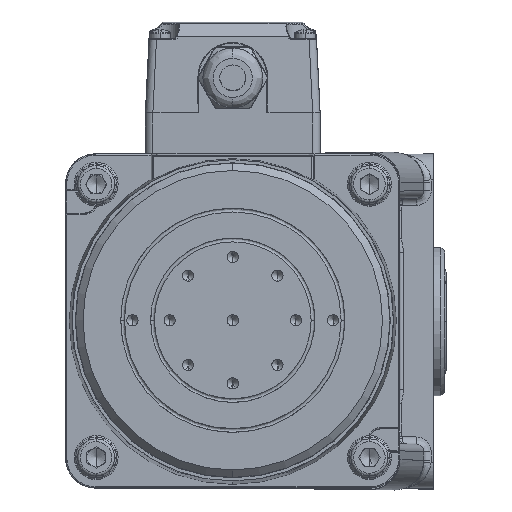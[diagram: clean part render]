
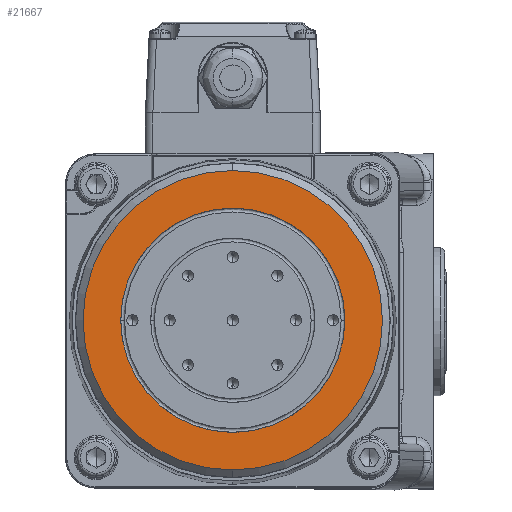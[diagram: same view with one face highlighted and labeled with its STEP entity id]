
A CAD part, top view. The second image highlights one B-rep face of the part: STEP entity #21667.
In plain terms, the highlighted planar face has unit normal (0, 0, 1) as drawn and (0, 0, -1) by its records, which use the part's own axes.
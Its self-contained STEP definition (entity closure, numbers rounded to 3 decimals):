
#645 = VERTEX_POINT ( 'NONE', #47322 ) ;
#1677 = FACE_OUTER_BOUND ( 'NONE', #65359, .T. ) ;
#3522 = CIRCLE ( 'NONE', #73981, 40.3 ) ;
#7780 = EDGE_CURVE ( 'NONE', #645, #13506, #3522, .T. ) ;
#13506 = VERTEX_POINT ( 'NONE', #37418 ) ;
#13591 = CARTESIAN_POINT ( 'NONE',  ( 14.34, -4.557, 71. ) ) ;
#18049 = CARTESIAN_POINT ( 'NONE',  ( 14.34, -4.557, 71. ) ) ;
#18631 = CARTESIAN_POINT ( 'NONE',  ( 14.34, -4.557, 71. ) ) ;
#18808 = DIRECTION ( 'NONE',  ( 1., 0., 0. ) ) ;
#19599 = CIRCLE ( 'NONE', #46079, 40.3 ) ;
#21667 = ADVANCED_FACE ( 'NONE', ( #1677, #102704 ), #34804, .F. ) ;
#30130 = DIRECTION ( 'NONE',  ( 0., 0., -1. ) ) ;
#33222 = DIRECTION ( 'NONE',  ( 0., 0., 1. ) ) ;
#34053 = DIRECTION ( 'NONE',  ( 0., 0., -1. ) ) ;
#34804 = PLANE ( 'NONE',  #99738 ) ;
#34878 = CIRCLE ( 'NONE', #87746, 30.16 ) ;
#37418 = CARTESIAN_POINT ( 'NONE',  ( -25.96, -4.557, 71. ) ) ;
#40312 = CARTESIAN_POINT ( 'NONE',  ( -15.821, -4.557, 71. ) ) ;
#44528 = ORIENTED_EDGE ( 'NONE', *, *, #103623, .F. ) ;
#45868 = VERTEX_POINT ( 'NONE', #40312 ) ;
#46079 = AXIS2_PLACEMENT_3D ( 'NONE', #18631, #87033, #62203 ) ;
#47322 = CARTESIAN_POINT ( 'NONE',  ( 54.639, -4.557, 71. ) ) ;
#53627 = EDGE_CURVE ( 'NONE', #13506, #645, #19599, .T. ) ;
#55580 = ORIENTED_EDGE ( 'NONE', *, *, #53627, .F. ) ;
#62203 = DIRECTION ( 'NONE',  ( 1., 0., 0. ) ) ;
#65359 = EDGE_LOOP ( 'NONE', ( #73220, #55580 ) ) ;
#67710 = DIRECTION ( 'NONE',  ( -1., 0., 0. ) ) ;
#67800 = EDGE_CURVE ( 'NONE', #45868, #107839, #34878, .T. ) ;
#73209 = CIRCLE ( 'NONE', #97919, 30.16 ) ;
#73220 = ORIENTED_EDGE ( 'NONE', *, *, #7780, .F. ) ;
#73326 = ORIENTED_EDGE ( 'NONE', *, *, #67800, .F. ) ;
#73981 = AXIS2_PLACEMENT_3D ( 'NONE', #101650, #33222, #84483 ) ;
#76719 = DIRECTION ( 'NONE',  ( 0., 0., 1. ) ) ;
#80867 = DIRECTION ( 'NONE',  ( -1., 0., 0. ) ) ;
#84483 = DIRECTION ( 'NONE',  ( 1., 0., 0. ) ) ;
#87033 = DIRECTION ( 'NONE',  ( 0., 0., 1. ) ) ;
#87746 = AXIS2_PLACEMENT_3D ( 'NONE', #18049, #34053, #67710 ) ;
#88754 = CARTESIAN_POINT ( 'NONE',  ( 44.5, -4.557, 71. ) ) ;
#93495 = EDGE_LOOP ( 'NONE', ( #73326, #44528 ) ) ;
#97919 = AXIS2_PLACEMENT_3D ( 'NONE', #13591, #30130, #80867 ) ;
#99738 = AXIS2_PLACEMENT_3D ( 'NONE', #100518, #76719, #18808 ) ;
#100518 = CARTESIAN_POINT ( 'NONE',  ( 14.34, -4.557, 71. ) ) ;
#101650 = CARTESIAN_POINT ( 'NONE',  ( 14.34, -4.557, 71. ) ) ;
#102704 = FACE_BOUND ( 'NONE', #93495, .T. ) ;
#103623 = EDGE_CURVE ( 'NONE', #107839, #45868, #73209, .T. ) ;
#107839 = VERTEX_POINT ( 'NONE', #88754 ) ;
